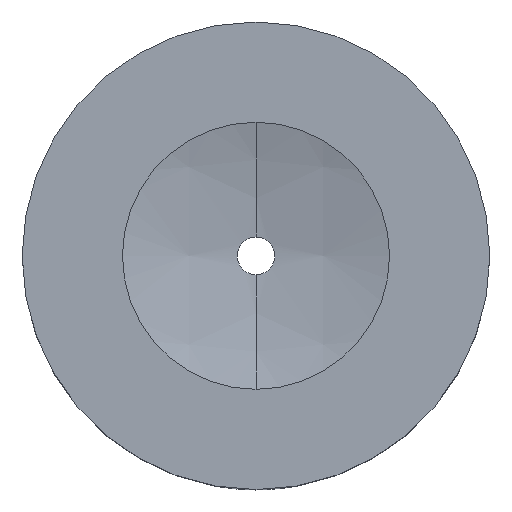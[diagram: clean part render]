
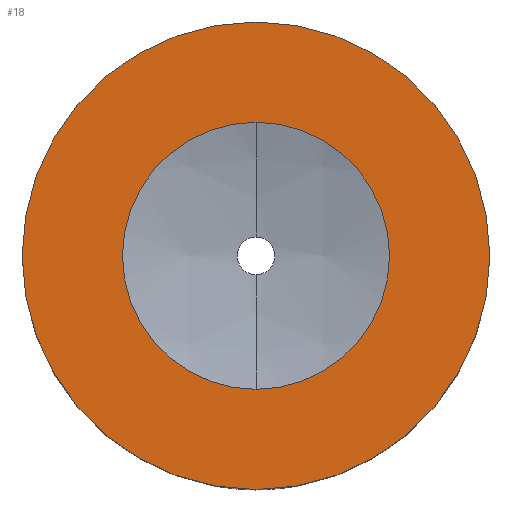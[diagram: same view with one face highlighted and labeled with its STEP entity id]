
A CAD part, top view. The second image highlights one B-rep face of the part: STEP entity #18.
In plain terms, the highlighted planar face has unit normal (0, 0, 1).
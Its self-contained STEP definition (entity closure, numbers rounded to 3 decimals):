
#18 = ADVANCED_FACE ( 'NONE', ( #323, #635 ), #155, .T. ) ;
#30 = CARTESIAN_POINT ( 'NONE',  ( 0., 0., 0. ) ) ;
#31 = DIRECTION ( 'NONE',  ( -1., 0., 0. ) ) ;
#98 = CARTESIAN_POINT ( 'NONE',  ( 0., -10.851, 0. ) ) ;
#112 = EDGE_LOOP ( 'NONE', ( #475, #177 ) ) ;
#131 = CIRCLE ( 'NONE', #510, 10.851 ) ;
#155 = PLANE ( 'NONE',  #345 ) ;
#177 = ORIENTED_EDGE ( 'NONE', *, *, #467, .T. ) ;
#229 = EDGE_LOOP ( 'NONE', ( #620, #525 ) ) ;
#252 = DIRECTION ( 'NONE',  ( -1., 0., 0. ) ) ;
#265 = DIRECTION ( 'NONE',  ( 0., 0., 1. ) ) ;
#266 = CIRCLE ( 'NONE', #655, 10.851 ) ;
#286 = EDGE_CURVE ( 'NONE', #584, #458, #266, .T. ) ;
#293 = CARTESIAN_POINT ( 'NONE',  ( 0., 0., 0. ) ) ;
#314 = CIRCLE ( 'NONE', #405, 19. ) ;
#319 = CARTESIAN_POINT ( 'NONE',  ( 0., -1.5, 0. ) ) ;
#323 = FACE_BOUND ( 'NONE', #229, .T. ) ;
#345 = AXIS2_PLACEMENT_3D ( 'NONE', #319, #265, #521 ) ;
#352 = CARTESIAN_POINT ( 'NONE',  ( 0., 10.851, 0. ) ) ;
#384 = AXIS2_PLACEMENT_3D ( 'NONE', #614, #596, #494 ) ;
#394 = CARTESIAN_POINT ( 'NONE',  ( -19., 0., 0. ) ) ;
#405 = AXIS2_PLACEMENT_3D ( 'NONE', #30, #659, #598 ) ;
#439 = VERTEX_POINT ( 'NONE', #394 ) ;
#444 = VERTEX_POINT ( 'NONE', #506 ) ;
#452 = CARTESIAN_POINT ( 'NONE',  ( 0., 0., 0. ) ) ;
#458 = VERTEX_POINT ( 'NONE', #352 ) ;
#467 = EDGE_CURVE ( 'NONE', #439, #444, #314, .T. ) ;
#475 = ORIENTED_EDGE ( 'NONE', *, *, #588, .T. ) ;
#494 = DIRECTION ( 'NONE',  ( 1., 0., 0. ) ) ;
#498 = EDGE_CURVE ( 'NONE', #458, #584, #131, .T. ) ;
#500 = DIRECTION ( 'NONE',  ( 0., 0., -1. ) ) ;
#506 = CARTESIAN_POINT ( 'NONE',  ( 19., 0., 0. ) ) ;
#510 = AXIS2_PLACEMENT_3D ( 'NONE', #452, #670, #252 ) ;
#521 = DIRECTION ( 'NONE',  ( 1., 0., 0. ) ) ;
#525 = ORIENTED_EDGE ( 'NONE', *, *, #286, .T. ) ;
#530 = CIRCLE ( 'NONE', #384, 19. ) ;
#584 = VERTEX_POINT ( 'NONE', #98 ) ;
#588 = EDGE_CURVE ( 'NONE', #444, #439, #530, .T. ) ;
#596 = DIRECTION ( 'NONE',  ( 0., 0., 1. ) ) ;
#598 = DIRECTION ( 'NONE',  ( 1., 0., 0. ) ) ;
#614 = CARTESIAN_POINT ( 'NONE',  ( 0., 0., 0. ) ) ;
#620 = ORIENTED_EDGE ( 'NONE', *, *, #498, .T. ) ;
#635 = FACE_OUTER_BOUND ( 'NONE', #112, .T. ) ;
#655 = AXIS2_PLACEMENT_3D ( 'NONE', #293, #500, #31 ) ;
#659 = DIRECTION ( 'NONE',  ( 0., 0., 1. ) ) ;
#670 = DIRECTION ( 'NONE',  ( 0., 0., -1. ) ) ;
